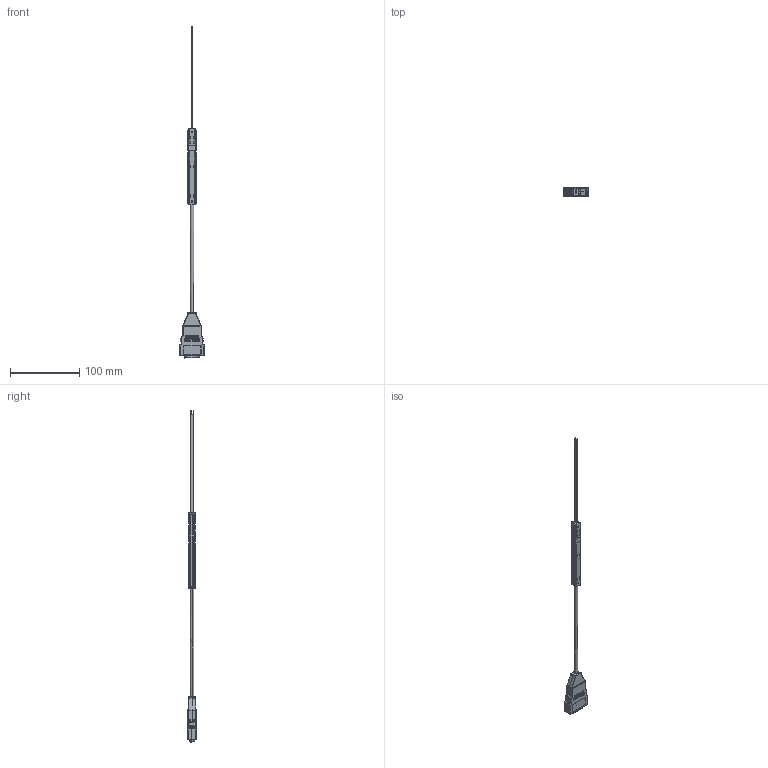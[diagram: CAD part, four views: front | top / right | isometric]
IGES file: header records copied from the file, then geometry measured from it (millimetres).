
Start section: SolidWorks IGES file using analytic representation for surfaces
Global section: file name: C:\Users\Nate.Gardner\Documents\FP-NS-180-TS15 Mountable\FP-NS-180-TS15M.IGS; native system: SolidWorks 2023; preprocessor: SolidWorks 2023; author: Nate.Gardner; date: 250730.152239; units: inch
Bounding box: 35.41 x 12.26 x 479.74 mm (x, y, z)
Surface area: 26459.6 mm2 (no closed solid volume)
Topology: 0 solids, 0 shells, 2849 faces, 25910 edges, 25873 vertices
Faces by surface type: bspline 1843, revolution 1006
